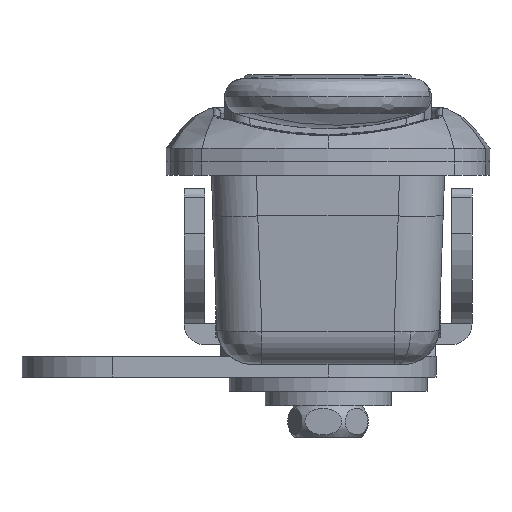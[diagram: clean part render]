
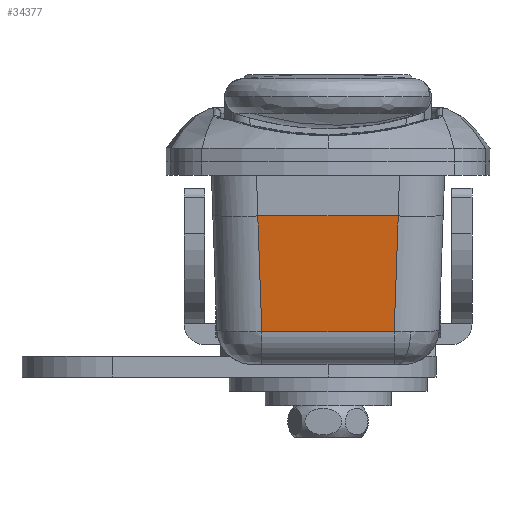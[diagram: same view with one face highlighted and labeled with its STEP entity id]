
A CAD part, front view. The second image highlights one B-rep face of the part: STEP entity #34377.
In plain terms, the highlighted planar face has unit normal (0, -0.996, -0.087).
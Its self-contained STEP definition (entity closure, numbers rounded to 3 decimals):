
#277 = LINE ( 'NONE', #40657, #41640 ) ;
#380 = CARTESIAN_POINT ( 'NONE',  ( 7.794, -101.79, -6. ) ) ;
#536 = CARTESIAN_POINT ( 'NONE',  ( 7.797, -101.79, -6. ) ) ;
#589 = EDGE_CURVE ( 'NONE', #3707, #26488, #11981, .T. ) ;
#911 = VECTOR ( 'NONE', #18312, 1000. ) ;
#1351 = EDGE_CURVE ( 'NONE', #47741, #3707, #4146, .T. ) ;
#2778 = B_SPLINE_CURVE_WITH_KNOTS ( 'NONE', 3,
 ( #51162, #23116, #7125, #35198 ),
 .UNSPECIFIED., .F., .F.,
 ( 4, 4 ),
 ( 0., 1. ),
 .UNSPECIFIED. ) ;
#3707 = VERTEX_POINT ( 'NONE', #51142 ) ;
#4146 = B_SPLINE_CURVE_WITH_KNOTS ( 'NONE', 3,
 ( #380, #536, #28622, #21493 ),
 .UNSPECIFIED., .F., .F.,
 ( 4, 4 ),
 ( 0., 1. ),
 .UNSPECIFIED. ) ;
#6607 = VERTEX_POINT ( 'NONE', #47713 ) ;
#7125 = CARTESIAN_POINT ( 'NONE',  ( -7.797, -101.79, -6. ) ) ;
#8070 = AXIS2_PLACEMENT_3D ( 'NONE', #44398, #20400, #48449 ) ;
#9401 = EDGE_CURVE ( 'NONE', #28947, #26900, #25156, .T. ) ;
#9911 = CARTESIAN_POINT ( 'NONE',  ( 7.794, -101.79, -6. ) ) ;
#10832 = CARTESIAN_POINT ( 'NONE',  ( -7.354, -100.666, -18.849 ) ) ;
#11981 = LINE ( 'NONE', #14558, #21416 ) ;
#13002 = ORIENTED_EDGE ( 'NONE', *, *, #9401, .F. ) ;
#14558 = CARTESIAN_POINT ( 'NONE',  ( 7.803, -101.79, -6. ) ) ;
#14994 = CARTESIAN_POINT ( 'NONE',  ( -7.354, -100.666, -18.849 ) ) ;
#16357 = PLANE ( 'NONE',  #8070 ) ;
#18312 = DIRECTION ( 'NONE',  ( -1., 0., 0. ) ) ;
#18946 = DIRECTION ( 'NONE',  ( -0.035, 0.087, -0.996 ) ) ;
#20400 = DIRECTION ( 'NONE',  ( 0., 0.996, 0.087 ) ) ;
#21416 = VECTOR ( 'NONE', #18946, 1000. ) ;
#21493 = CARTESIAN_POINT ( 'NONE',  ( 7.803, -101.79, -6. ) ) ;
#21812 = ORIENTED_EDGE ( 'NONE', *, *, #42369, .F. ) ;
#23116 = CARTESIAN_POINT ( 'NONE',  ( -7.8, -101.79, -6. ) ) ;
#25156 = LINE ( 'NONE', #10832, #34569 ) ;
#26284 = ORIENTED_EDGE ( 'NONE', *, *, #1351, .F. ) ;
#26488 = VERTEX_POINT ( 'NONE', #46375 ) ;
#26900 = VERTEX_POINT ( 'NONE', #41595 ) ;
#28622 = CARTESIAN_POINT ( 'NONE',  ( 7.8, -101.79, -6. ) ) ;
#28796 = DIRECTION ( 'NONE',  ( 1., 0., 0. ) ) ;
#28947 = VERTEX_POINT ( 'NONE', #14994 ) ;
#32083 = ORIENTED_EDGE ( 'NONE', *, *, #46144, .F. ) ;
#32940 = LINE ( 'NONE', #38274, #911 ) ;
#34349 = FACE_OUTER_BOUND ( 'NONE', #50077, .T. ) ;
#34377 = ADVANCED_FACE ( 'NONE', ( #34349 ), #16357, .F. ) ;
#34569 = VECTOR ( 'NONE', #38871, 1000. ) ;
#35198 = CARTESIAN_POINT ( 'NONE',  ( -7.794, -101.79, -6. ) ) ;
#38274 = CARTESIAN_POINT ( 'NONE',  ( -15., -100.666, -18.849 ) ) ;
#38871 = DIRECTION ( 'NONE',  ( -0.035, -0.087, 0.996 ) ) ;
#40657 = CARTESIAN_POINT ( 'NONE',  ( -13., -101.79, -6. ) ) ;
#41595 = CARTESIAN_POINT ( 'NONE',  ( -7.803, -101.79, -6. ) ) ;
#41640 = VECTOR ( 'NONE', #28796, 1000. ) ;
#42369 = EDGE_CURVE ( 'NONE', #26488, #28947, #32940, .T. ) ;
#42682 = EDGE_CURVE ( 'NONE', #6607, #47741, #277, .T. ) ;
#44398 = CARTESIAN_POINT ( 'NONE',  ( -15., -101.79, -6. ) ) ;
#44534 = ORIENTED_EDGE ( 'NONE', *, *, #589, .F. ) ;
#46144 = EDGE_CURVE ( 'NONE', #26900, #6607, #2778, .T. ) ;
#46375 = CARTESIAN_POINT ( 'NONE',  ( 7.354, -100.666, -18.849 ) ) ;
#47713 = CARTESIAN_POINT ( 'NONE',  ( -7.794, -101.79, -6. ) ) ;
#47741 = VERTEX_POINT ( 'NONE', #9911 ) ;
#48449 = DIRECTION ( 'NONE',  ( 0., -0.087, 0.996 ) ) ;
#49731 = ORIENTED_EDGE ( 'NONE', *, *, #42682, .F. ) ;
#50077 = EDGE_LOOP ( 'NONE', ( #21812, #44534, #26284, #49731, #32083, #13002 ) ) ;
#51142 = CARTESIAN_POINT ( 'NONE',  ( 7.803, -101.79, -6. ) ) ;
#51162 = CARTESIAN_POINT ( 'NONE',  ( -7.803, -101.79, -6. ) ) ;
